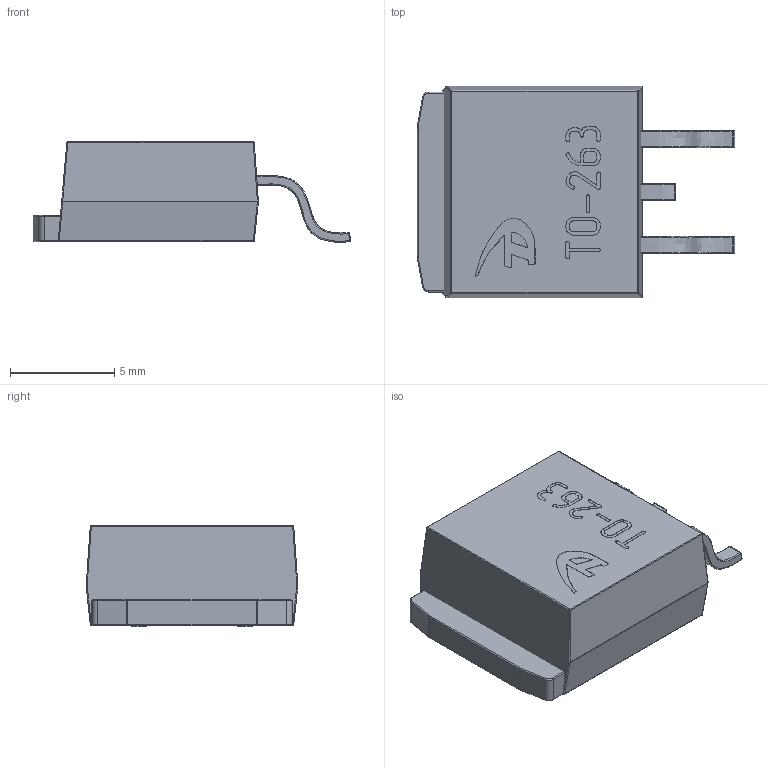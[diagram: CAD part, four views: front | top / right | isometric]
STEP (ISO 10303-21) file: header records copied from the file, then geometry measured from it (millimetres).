
FILE_DESCRIPTION(('STEP AP242'), '1');
FILE_NAME('TO-263', '', ('UNSPECIFIED'), ('UNSPECIFIED'), 'C3D Converter', 'C3D Toolkit', '');
FILE_SCHEMA(('AP242_MANAGED_MODEL_BASED_3D_ENGINEERING_MIM_LF { 1 0 10303 442 1 1 4 }'));
Length unit declared in the file: millimetre
Bounding box: 15.25 x 10.16 x 4.84 mm (x, y, z)
Volume: 546.4 mm3; surface area: 595.1 mm2
Topology: 5 solids, 5 shells, 315 faces, 801 edges, 474 vertices
Faces by surface type: extrusion 111, plane 88, bspline 60, cylinder 44, torus 8, sphere 4
Entity records: 18135 total; most frequent: CARTESIAN_POINT 8826, ORIENTED_EDGE 1526, DIRECTION 1032, EDGE_CURVE 763, VECTOR 478, VERTEX_POINT 470, B_SPLINE_CURVE_WITH_KNOTS 367, LINE 367
